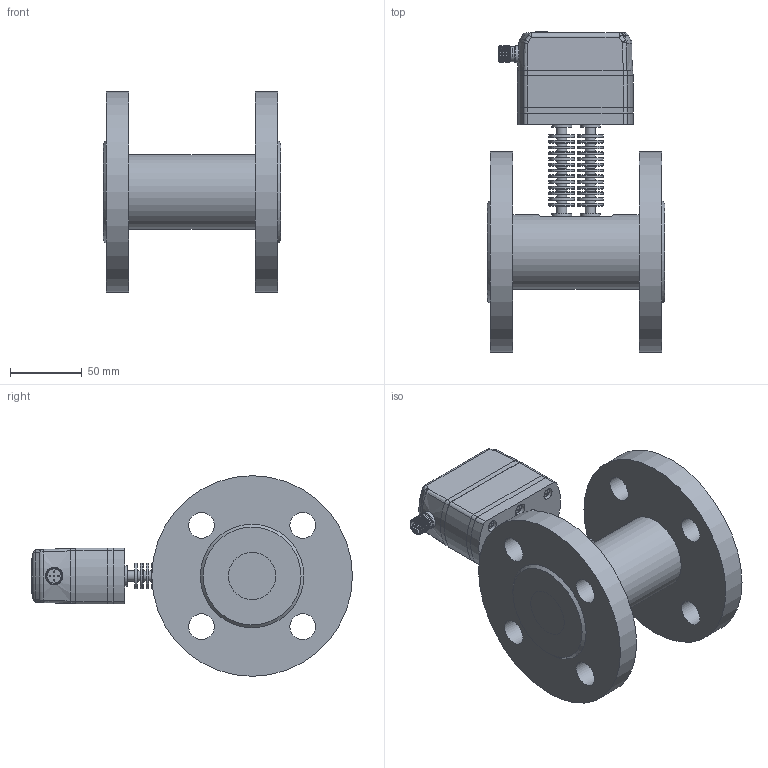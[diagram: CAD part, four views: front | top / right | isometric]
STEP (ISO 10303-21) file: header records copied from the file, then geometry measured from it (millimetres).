
FILE_DESCRIPTION( (''), '2;1');
FILE_NAME( 'QEKH_DN32_flange_cooling-fins_1.step', '2025-04-29T11:17:00+08:00', (''), (''), '', '', '');
FILE_SCHEMA (('AUTOMOTIVE_DESIGN { 1 0 10303 214 3 1 1 1 }'));
Length unit declared in the file: millimetre
Products named in the file (1): QEKH DN32_flange_cooling-fins_1
Bounding box: 124 x 223.9 x 140 mm (x, y, z)
Volume: 876443.5 mm3; surface area: 190538.6 mm2
Topology: 28 solids, 31 shells, 1696 faces, 4052 edges, 2583 vertices
Faces by surface type: plane 796, cylinder 348, extrusion 239, cone 204, torus 52, bspline 48, sphere 9
Full cylindrical faces by diameter (mm): 1 x10, 2.05 x4, 2.6 x4, 2.7 x5, 2.874 x4, 3 x6, 3.1 x1, 3.3 x8, 3.5 x7, 3.838 x6, 4.2 x2, 4.5 x12, 5 x2, 5.5 x10, 7 x34, 8 x4, 9 x2, 9.8 x2, 10.8 x1, 11 x4, 11.5 x2, 11.992 x2, 12 x8, 14 x6, 14.5 x2, 17 x2, 18 x34, 19.1 x6, 33 x4, 52 x1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
Entity records: 53966 total; most frequent: CARTESIAN_POINT 16795, ORIENTED_EDGE 7212, DIRECTION 6957, EDGE_CURVE 3606, VERTEX_POINT 2498, AXIS2_PLACEMENT_3D 2441, EDGE_LOOP 2284, VECTOR 2075
